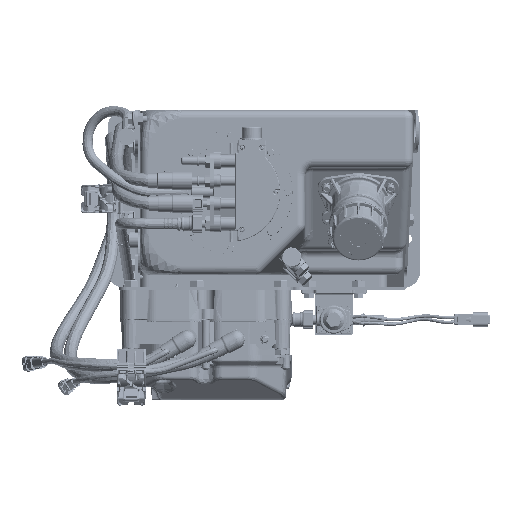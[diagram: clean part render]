
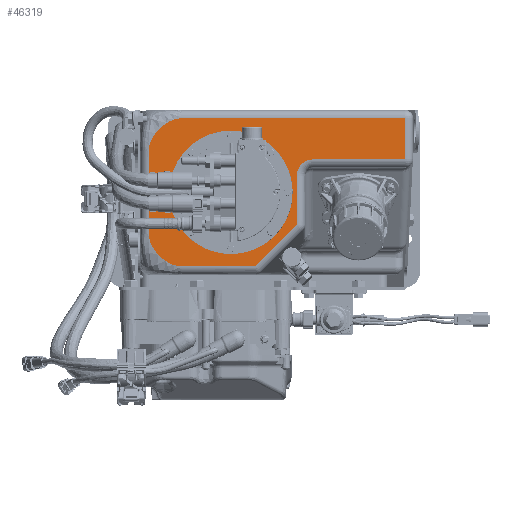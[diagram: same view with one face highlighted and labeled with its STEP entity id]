
A CAD part, top view. The second image highlights one B-rep face of the part: STEP entity #46319.
In plain terms, the highlighted planar face has unit normal (0, 0, 1).
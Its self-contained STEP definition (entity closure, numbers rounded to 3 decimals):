
#35075=CARTESIAN_POINT('Vertex',(171.458,95.,370.)) ;
#35122=CARTESIAN_POINT('Vertex',(171.458,45.,370.)) ;
#38871=CARTESIAN_POINT('Vertex',(40.,25.,370.)) ;
#38874=CARTESIAN_POINT('Line Origine',(40.,5.,370.)) ;
#38878=CARTESIAN_POINT('Vertex',(40.,-34.881,370.)) ;
#38910=CARTESIAN_POINT('Vertex',(60.,45.,370.)) ;
#38913=CARTESIAN_POINT('Axis2P3D Location',(60.,25.,370.)) ;
#38930=CARTESIAN_POINT('Line Origine',(11.165,95.,370.)) ;
#38934=CARTESIAN_POINT('Vertex',(-100.,95.,370.)) ;
#40380=CARTESIAN_POINT('Vertex',(-140.,55.,370.)) ;
#40384=CARTESIAN_POINT('Control Point',(-100.,95.,370.)) ;
#40385=CARTESIAN_POINT('Control Point',(-101.342,95.,369.999)) ;
#40386=CARTESIAN_POINT('Control Point',(-102.666,94.919,370.)) ;
#40387=CARTESIAN_POINT('Control Point',(-103.971,94.761,370.)) ;
#40388=CARTESIAN_POINT('Control Point',(-108.319,93.991,370.)) ;
#40389=CARTESIAN_POINT('Control Point',(-112.401,92.491,370.)) ;
#40390=CARTESIAN_POINT('Control Point',(-115.146,91.154,370.)) ;
#40391=CARTESIAN_POINT('Control Point',(-121.335,87.462,370.)) ;
#40392=CARTESIAN_POINT('Control Point',(-126.793,82.677,370.)) ;
#40393=CARTESIAN_POINT('Control Point',(-129.691,79.628,370.)) ;
#40394=CARTESIAN_POINT('Control Point',(-133.759,74.466,370.)) ;
#40395=CARTESIAN_POINT('Control Point',(-136.883,68.55,370.)) ;
#40396=CARTESIAN_POINT('Control Point',(-137.848,66.362,370.)) ;
#40397=CARTESIAN_POINT('Control Point',(-138.971,63.111,370.)) ;
#40398=CARTESIAN_POINT('Control Point',(-139.642,59.646,370.)) ;
#40399=CARTESIAN_POINT('Control Point',(-139.797,58.604,370.)) ;
#40400=CARTESIAN_POINT('Control Point',(-139.934,57.255,370.)) ;
#40401=CARTESIAN_POINT('Control Point',(-139.988,55.88,370.)) ;
#40402=CARTESIAN_POINT('Control Point',(-139.996,55.588,370.)) ;
#40403=CARTESIAN_POINT('Control Point',(-140.,55.294,370.)) ;
#40404=CARTESIAN_POINT('Control Point',(-140.,55.,370.)) ;
#40420=CARTESIAN_POINT('Line Origine',(10.729,45.,370.)) ;
#40437=CARTESIAN_POINT('Line Origine',(171.458,5.,370.)) ;
#46235=CARTESIAN_POINT('Vertex',(-140.,-45.,370.)) ;
#46238=CARTESIAN_POINT('Line Origine',(-140.,5.,370.)) ;
#46250=CARTESIAN_POINT('Axis2P3D Location',(0.,105.,370.)) ;
#46256=CARTESIAN_POINT('Control Point',(-140.,-45.,370.)) ;
#46257=CARTESIAN_POINT('Control Point',(-140.,-47.429,370.)) ;
#46258=CARTESIAN_POINT('Control Point',(-139.735,-49.858,370.)) ;
#46259=CARTESIAN_POINT('Control Point',(-139.205,-52.261,370.)) ;
#46260=CARTESIAN_POINT('Control Point',(-137.236,-58.4,370.)) ;
#46261=CARTESIAN_POINT('Control Point',(-133.94,-64.093,370.)) ;
#46262=CARTESIAN_POINT('Control Point',(-131.525,-67.398,370.)) ;
#46263=CARTESIAN_POINT('Control Point',(-126.796,-72.758,370.)) ;
#46264=CARTESIAN_POINT('Control Point',(-121.275,-77.259,370.)) ;
#46265=CARTESIAN_POINT('Control Point',(-118.778,-79.011,370.)) ;
#46266=CARTESIAN_POINT('Control Point',(-114.197,-81.704,370.)) ;
#46267=CARTESIAN_POINT('Control Point',(-109.3,-83.58,370.)) ;
#46268=CARTESIAN_POINT('Control Point',(-107.147,-84.214,370.)) ;
#46269=CARTESIAN_POINT('Control Point',(-104.413,-84.754,370.)) ;
#46270=CARTESIAN_POINT('Control Point',(-101.655,-84.959,370.)) ;
#46271=CARTESIAN_POINT('Control Point',(-101.103,-84.986,370.)) ;
#46272=CARTESIAN_POINT('Control Point',(-100.552,-85.,370.)) ;
#46273=CARTESIAN_POINT('Control Point',(-100.,-85.,370.)) ;
#46274=CARTESIAN_POINT('Vertex',(-100.,-85.,370.)) ;
#46277=CARTESIAN_POINT('Line Origine',(-55.06,-85.,370.)) ;
#46281=CARTESIAN_POINT('Vertex',(-10.119,-85.,370.)) ;
#46284=CARTESIAN_POINT('Line Origine',(14.94,-59.94,370.)) ;
#46301=CARTESIAN_POINT('Axis2P3D Location',(-40.,5.,370.)) ;
#46305=CARTESIAN_POINT('Vertex',(-115.,5.,370.)) ;
#46307=CARTESIAN_POINT('Vertex',(35.,5.,370.)) ;
#46310=CARTESIAN_POINT('Axis2P3D Location',(-40.,5.,370.)) ;
#38875=DIRECTION('Vector Direction',(0.,1.,0.)) ;
#38914=DIRECTION('Axis2P3D Direction',(-0.,0.,1.)) ;
#38931=DIRECTION('Vector Direction',(1.,0.,0.)) ;
#40421=DIRECTION('Vector Direction',(1.,0.,0.)) ;
#40438=DIRECTION('Vector Direction',(0.,-1.,0.)) ;
#46239=DIRECTION('Vector Direction',(0.,-1.,0.)) ;
#46251=DIRECTION('Axis2P3D Direction',(-0.,0.,1.)) ;
#46252=DIRECTION('Axis2P3D XDirection',(0.,-1.,0.)) ;
#46278=DIRECTION('Vector Direction',(1.,0.,0.)) ;
#46285=DIRECTION('Vector Direction',(0.707,0.707,0.)) ;
#46302=DIRECTION('Axis2P3D Direction',(-0.,0.,1.)) ;
#46311=DIRECTION('Axis2P3D Direction',(-0.,0.,1.)) ;
#38915=AXIS2_PLACEMENT_3D('Circle Axis2P3D',#38913,#38914,$) ;
#46253=AXIS2_PLACEMENT_3D('Plane Axis2P3D',#46250,#46251,#46252) ;
#46303=AXIS2_PLACEMENT_3D('Circle Axis2P3D',#46301,#46302,$) ;
#46312=AXIS2_PLACEMENT_3D('Circle Axis2P3D',#46310,#46311,$) ;
#46290=ORIENTED_EDGE('',*,*,#40441,.T.) ;
#46291=ORIENTED_EDGE('',*,*,#38936,.F.) ;
#46292=ORIENTED_EDGE('',*,*,#40405,.F.) ;
#46293=ORIENTED_EDGE('',*,*,#46242,.T.) ;
#46294=ORIENTED_EDGE('',*,*,#46276,.F.) ;
#46295=ORIENTED_EDGE('',*,*,#46283,.T.) ;
#46296=ORIENTED_EDGE('',*,*,#46288,.F.) ;
#46297=ORIENTED_EDGE('',*,*,#38880,.F.) ;
#46298=ORIENTED_EDGE('',*,*,#38917,.F.) ;
#46299=ORIENTED_EDGE('',*,*,#40424,.F.) ;
#46316=ORIENTED_EDGE('',*,*,#46309,.F.) ;
#46317=ORIENTED_EDGE('',*,*,#46314,.F.) ;
#46318=FACE_BOUND('',#46315,.T.) ;
#38876=VECTOR('Line Direction',#38875,1.) ;
#38932=VECTOR('Line Direction',#38931,1.) ;
#40422=VECTOR('Line Direction',#40421,1.) ;
#40439=VECTOR('Line Direction',#40438,1.) ;
#46240=VECTOR('Line Direction',#46239,1.) ;
#46279=VECTOR('Line Direction',#46278,1.) ;
#46286=VECTOR('Line Direction',#46285,1.) ;
#46319=ADVANCED_FACE('Urea Tank Body ASM|Urea Tank',(#46300,#46318),#46254,.T.) ;
#40383=B_SPLINE_CURVE_WITH_KNOTS('',5,(#40384,#40385,#40386,#40387,#40388,#40389,#40390,#40391,#40392,#40393,#40394,#40395,#40396,#40397,#40398,#40399,#40400,#40401,#40402,#40403,#40404),.UNSPECIFIED.,.F.,.U.,(6,3,3,3,3,3,6),(0.,11.256,38.242,75.182,95.258,103.714,105.985),.UNSPECIFIED.) ;
#46255=B_SPLINE_CURVE_WITH_KNOTS('',5,(#46256,#46257,#46258,#46259,#46260,#46261,#46262,#46263,#46264,#46265,#46266,#46267,#46268,#46269,#46270,#46271,#46272,#46273),.UNSPECIFIED.,.F.,.U.,(6,3,3,3,3,6),(0.,17.541,45.878,67.117,83.081,87.064),.UNSPECIFIED.) ;
#38916=CIRCLE('generated circle',#38915,20.) ;
#46304=CIRCLE('generated circle',#46303,75.) ;
#46313=CIRCLE('generated circle',#46312,75.) ;
#38880=EDGE_CURVE('',#38872,#38879,#38877,.F.) ;
#38917=EDGE_CURVE('',#38911,#38872,#38916,.T.) ;
#38936=EDGE_CURVE('',#38935,#35076,#38933,.T.) ;
#40405=EDGE_CURVE('',#40381,#38935,#40383,.F.) ;
#40424=EDGE_CURVE('',#35123,#38911,#40423,.F.) ;
#40441=EDGE_CURVE('',#35123,#35076,#40440,.F.) ;
#46242=EDGE_CURVE('',#40381,#46236,#46241,.T.) ;
#46276=EDGE_CURVE('',#46275,#46236,#46255,.F.) ;
#46283=EDGE_CURVE('',#46275,#46282,#46280,.T.) ;
#46288=EDGE_CURVE('',#38879,#46282,#46287,.F.) ;
#46309=EDGE_CURVE('',#46306,#46308,#46304,.T.) ;
#46314=EDGE_CURVE('',#46308,#46306,#46313,.T.) ;
#46289=EDGE_LOOP('',(#46290,#46291,#46292,#46293,#46294,#46295,#46296,#46297,#46298,#46299)) ;
#46315=EDGE_LOOP('',(#46316,#46317)) ;
#46300=FACE_OUTER_BOUND('',#46289,.T.) ;
#38877=LINE('Line',#38874,#38876) ;
#38933=LINE('Line',#38930,#38932) ;
#40423=LINE('Line',#40420,#40422) ;
#40440=LINE('Line',#40437,#40439) ;
#46241=LINE('Line',#46238,#46240) ;
#46280=LINE('Line',#46277,#46279) ;
#46287=LINE('Line',#46284,#46286) ;
#46254=PLANE('',#46253) ;
#35076=VERTEX_POINT('',#35075) ;
#35123=VERTEX_POINT('',#35122) ;
#38872=VERTEX_POINT('',#38871) ;
#38879=VERTEX_POINT('',#38878) ;
#38911=VERTEX_POINT('',#38910) ;
#38935=VERTEX_POINT('',#38934) ;
#40381=VERTEX_POINT('',#40380) ;
#46236=VERTEX_POINT('',#46235) ;
#46275=VERTEX_POINT('',#46274) ;
#46282=VERTEX_POINT('',#46281) ;
#46306=VERTEX_POINT('',#46305) ;
#46308=VERTEX_POINT('',#46307) ;
